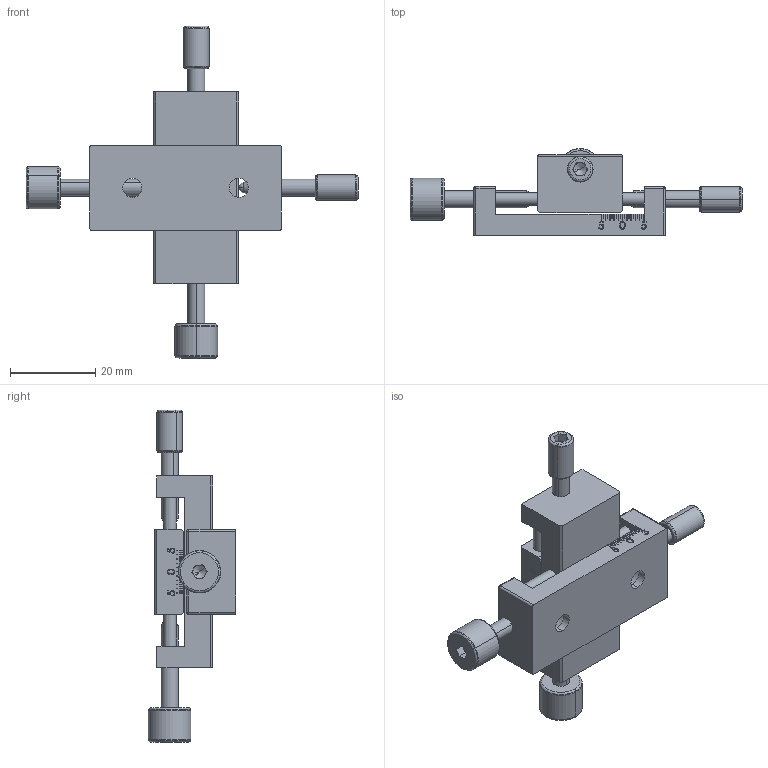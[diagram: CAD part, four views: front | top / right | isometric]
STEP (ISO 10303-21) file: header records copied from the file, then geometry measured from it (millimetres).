
FILE_DESCRIPTION (( 'STEP AP203' ), '1' );
FILE_NAME ('MNG2E-20CL(«¬¿ý).STEP', '2013-10-05T08:24:32', ( '' ), ( '' ), 'SwSTEP 2.0', 'SolidWorks 2013', '' );
FILE_SCHEMA (( 'CONFIG_CONTROL_DESIGN' ));
Length unit declared in the file: millimetre
Products named in the file (2): Group2^MNG2E-20CL(型錄); MNG2E-20CL(型錄)
Assembly tree (1 placements, depth 2):
  MNG2E-20CL(型錄)
    Group2^MNG2E-20CL(型錄)
Bounding box: 78 x 20.5 x 78 mm (x, y, z)
Volume: 18407 mm3; surface area: 11039.4 mm2
Topology: 4 solids, 4 shells, 1038 faces, 2794 edges, 1824 vertices
Faces by surface type: plane 717, bspline 173, cylinder 88, cone 32, torus 16, sphere 12
Entity records: 42172 total; most frequent: CARTESIAN_POINT 16966, ORIENTED_EDGE 5548, DIRECTION 4437, EDGE_CURVE 2774, VECTOR 2151, LINE 2151, VERTEX_POINT 1824, EDGE_LOOP 1144
